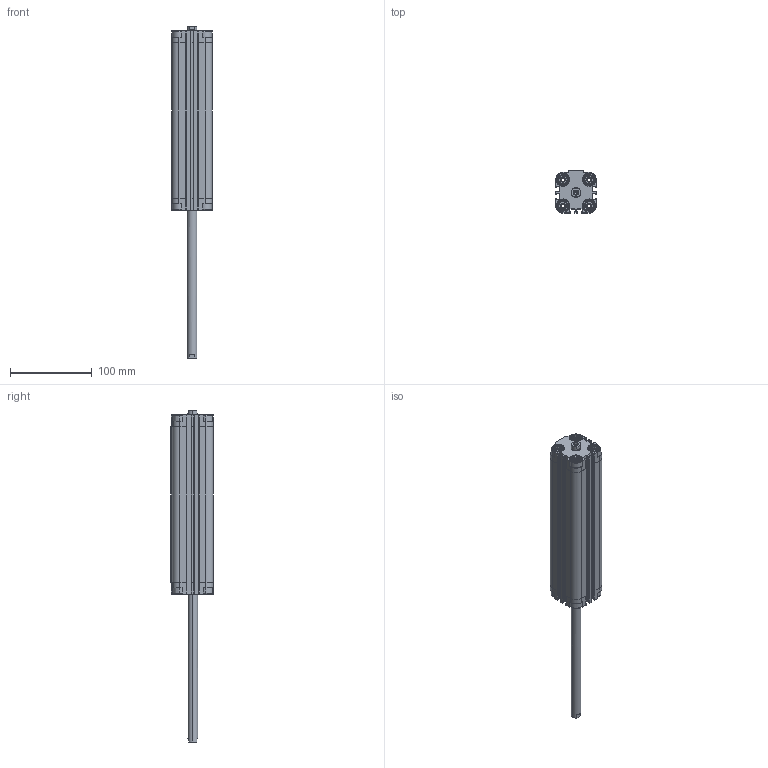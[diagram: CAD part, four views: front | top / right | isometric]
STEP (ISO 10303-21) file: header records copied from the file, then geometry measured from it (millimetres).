
FILE_DESCRIPTION (( 'STEP AP203' ), '1' );
FILE_NAME ('CDVU32-175F-P.STEP', '2020-07-24T18:14:12', ( '' ), ( '' ), 'SwSTEP 2.0', 'SolidWorks 2019', '' );
FILE_SCHEMA (( 'CONFIG_CONTROL_DESIGN' ));
Length unit declared in the file: millimetre
Products named in the file (1): CDVU32-175F-P
Bounding box: 50 x 52 x 406.5 mm (x, y, z)
Volume: 349259.5 mm3; surface area: 126222 mm2
Topology: 2 solids, 2 shells, 722 faces, 1928 edges, 1244 vertices
Faces by surface type: plane 422, cylinder 236, cone 64
Entity records: 22623 total; most frequent: CARTESIAN_POINT 4463, ORIENTED_EDGE 3840, DIRECTION 3710, EDGE_CURVE 1920, AXIS2_PLACEMENT_3D 1259, VERTEX_POINT 1244, VECTOR 1192, LINE 1192
